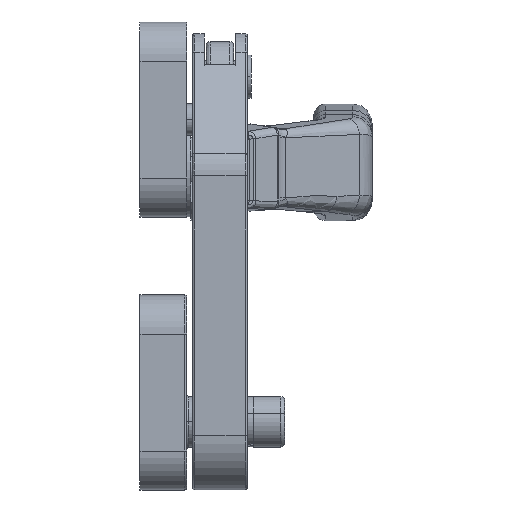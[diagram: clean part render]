
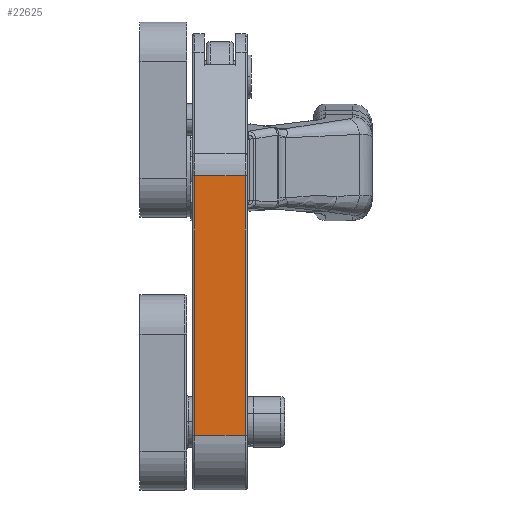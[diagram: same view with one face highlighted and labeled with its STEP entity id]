
A CAD part, left-side view. The second image highlights one B-rep face of the part: STEP entity #22625.
In plain terms, the highlighted planar face has unit normal (-1, 0, 0) as drawn and (0, 0, -1) by its records, which use the part's own axes.
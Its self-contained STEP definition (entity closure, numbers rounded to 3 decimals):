
#786 = DIRECTION ( 'NONE',  ( 0., 0., -1. ) ) ;
#2317 = ORIENTED_EDGE ( 'NONE', *, *, #19893, .F. ) ;
#4244 = CARTESIAN_POINT ( 'NONE',  ( 0., 7., -29. ) ) ;
#4875 = CARTESIAN_POINT ( 'NONE',  ( 0., 20.5, -29. ) ) ;
#6652 = ORIENTED_EDGE ( 'NONE', *, *, #35379, .T. ) ;
#7628 = VECTOR ( 'NONE', #18112, 1000. ) ;
#9869 = LINE ( 'NONE', #32430, #10344 ) ;
#10303 = ORIENTED_EDGE ( 'NONE', *, *, #34103, .T. ) ;
#10344 = VECTOR ( 'NONE', #19649, 1000. ) ;
#14314 = VERTEX_POINT ( 'NONE', #25575 ) ;
#16220 = EDGE_CURVE ( 'NONE', #14314, #39062, #9869, .T. ) ;
#17551 = CARTESIAN_POINT ( 'NONE',  ( 25.461, 7.5, -29. ) ) ;
#18112 = DIRECTION ( 'NONE',  ( 1., 0., 0. ) ) ;
#18738 = CARTESIAN_POINT ( 'NONE',  ( 92., 7.5, -29. ) ) ;
#19649 = DIRECTION ( 'NONE',  ( 0., -1., 0. ) ) ;
#19893 = EDGE_CURVE ( 'NONE', #20846, #39062, #32402, .T. ) ;
#20846 = VERTEX_POINT ( 'NONE', #17551 ) ;
#22625 = ADVANCED_FACE ( 'NONE', ( #23773 ), #37446, .T. ) ;
#22677 = AXIS2_PLACEMENT_3D ( 'NONE', #4244, #786, #23549 ) ;
#23549 = DIRECTION ( 'NONE',  ( -1., 0., 0. ) ) ;
#23773 = FACE_OUTER_BOUND ( 'NONE', #27556, .T. ) ;
#24379 = CARTESIAN_POINT ( 'NONE',  ( 25.461, 20.5, -29. ) ) ;
#25236 = DIRECTION ( 'NONE',  ( 1., 0., 0. ) ) ;
#25575 = CARTESIAN_POINT ( 'NONE',  ( 92., 20.5, -29. ) ) ;
#26805 = ORIENTED_EDGE ( 'NONE', *, *, #16220, .T. ) ;
#27556 = EDGE_LOOP ( 'NONE', ( #26805, #2317, #6652, #10303 ) ) ;
#27743 = DIRECTION ( 'NONE',  ( 0., 1., 0. ) ) ;
#30884 = VERTEX_POINT ( 'NONE', #24379 ) ;
#31869 = VECTOR ( 'NONE', #25236, 1000. ) ;
#32402 = LINE ( 'NONE', #38947, #31869 ) ;
#32430 = CARTESIAN_POINT ( 'NONE',  ( 92., 7., -29. ) ) ;
#33995 = VECTOR ( 'NONE', #27743, 1000. ) ;
#34103 = EDGE_CURVE ( 'NONE', #30884, #14314, #34587, .T. ) ;
#34274 = CARTESIAN_POINT ( 'NONE',  ( 25.461, 7., -29. ) ) ;
#34587 = LINE ( 'NONE', #4875, #7628 ) ;
#34916 = LINE ( 'NONE', #34274, #33995 ) ;
#35379 = EDGE_CURVE ( 'NONE', #20846, #30884, #34916, .T. ) ;
#37446 = PLANE ( 'NONE',  #22677 ) ;
#38947 = CARTESIAN_POINT ( 'NONE',  ( 0., 7.5, -29. ) ) ;
#39062 = VERTEX_POINT ( 'NONE', #18738 ) ;
